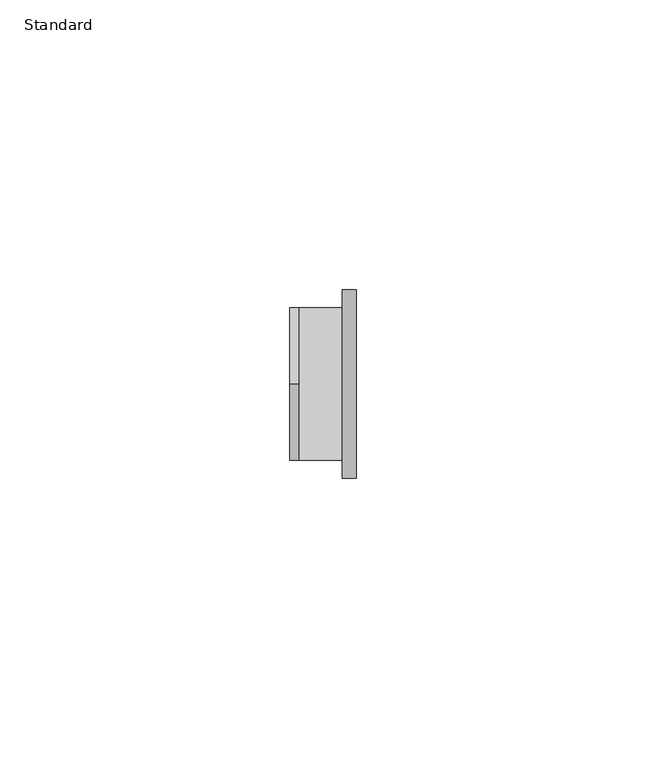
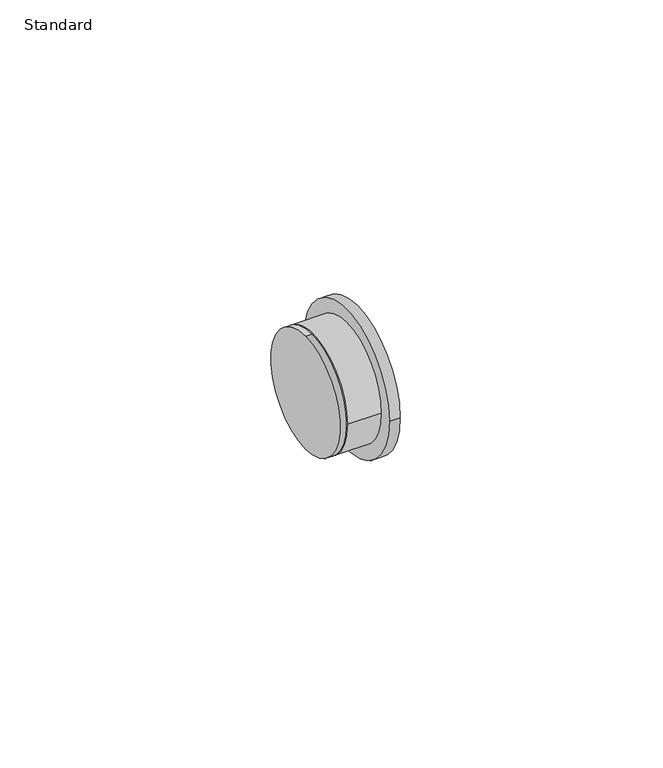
"""IFC4 building model written with IfcOpenShell, lengths in millimetres: pipe fitting geometry, Reducion Bushing_Lubrizol_CPVC_FlowGuard_MX : Standard."""

from ifc_helpers import new_model, si_unit, point, frame, origin, origin_2d, place, context, project, spatial, circle_curve, trimmed, segment, composite_curve, outline, extrude, source, transform, mapped, element, save


def standard_ea089392(model_context):
    return source(origin(), model_context, "Body", "SweptSolid", [
        extrude(outline(composite_curve([segment(trimmed(circle_curve(origin_2d(), 13.11), [point((-13.11, 0.0))], [point((13.11, 0.0))], False, "CARTESIAN"), True, "CONTINUOUS"), segment(trimmed(circle_curve(origin_2d(), 13.11), [point((13.11, 0.0))], [point((-13.11, 0.0))], False, "CARTESIAN"), True, "CONTINUOUS")], self_intersect=False)), frame((1.625, 0.0, 0.0), z_axis=(1.0, 0.0, 0.0), x_axis=(0.0, 1.0, 0.0)), (0.0, 0.0, 1.0), 7.413),
        extrude(outline(composite_curve([segment(trimmed(circle_curve(origin_2d(), 16.23), [point((-16.23, 0.0))], [point((16.23, 0.0))], False, "CARTESIAN"), True, "CONTINUOUS"), segment(trimmed(circle_curve(origin_2d(), 16.23), [point((16.23, 0.0))], [point((-16.23, 0.0))], False, "CARTESIAN"), True, "CONTINUOUS")], self_intersect=False)), frame((9.038, 0.0, 0.0), z_axis=(1.0, 0.0, 0.0), x_axis=(0.0, 1.0, 0.0)), (0.0, 0.0, 1.0), 2.375),
        extrude(outline(composite_curve([segment(trimmed(circle_curve(origin_2d(), 13.11), [point((0.0, 13.11))], [point((0.0, -13.11))], False, "CARTESIAN"), True, "CONTINUOUS"), segment(trimmed(circle_curve(origin_2d(), 13.11), [point((0.0, -13.11))], [point((0.0, 13.11))], False, "CARTESIAN"), True, "CONTINUOUS")], self_intersect=False)), frame((0.0, 0.0, 0.0), z_axis=(1.0, 0.0, 0.0), x_axis=(0.0, 1.0, 0.0)), (0.0, 0.0, 1.0), 1.625),
    ])


if __name__ == "__main__":
    model = new_model("IFC4")
    model_context = context("Model", 3, world=origin())
    ifc_project = project(units=[si_unit("LENGTHUNIT", "METRE", prefix="MILLI")], contexts=[model_context])
    site = spatial("IfcSite", under=ifc_project)
    building = spatial("IfcBuilding", under=site)
    placement = place(None, origin())
    standard_shape = standard_ea089392(model_context)
    element("IfcPipeFitting", 1, ObjectType="Reducion Bushing_Lubrizol_CPVC_FlowGuard_MX : Standard", at=placement, inside=building, context=model_context, shape_type="MappedRepresentation", body=[
        mapped(standard_shape, transform((0.0, 0.0, 0.0), x_axis=(1.0, 0.0, 0.0), y_axis=(0.0, 1.0, 0.0), z_axis=(0.0, 0.0, 1.0))),
    ])
    save(model, "model.ifc")
